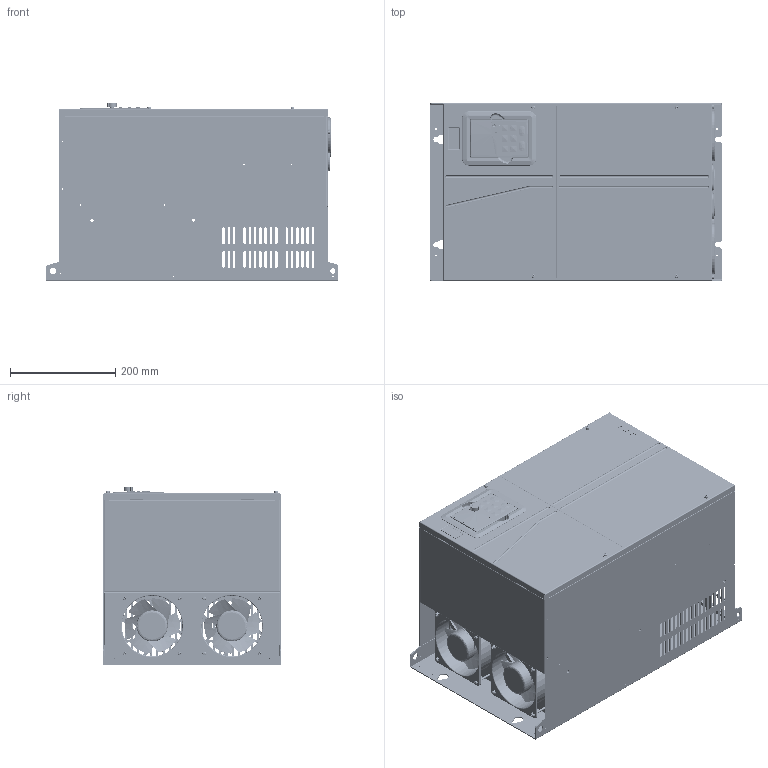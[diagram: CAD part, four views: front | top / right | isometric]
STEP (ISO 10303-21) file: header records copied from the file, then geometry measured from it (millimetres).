
FILE_DESCRIPTION((''),'2;1');
FILE_NAME('GD350-01-110G-4_ASM','2024-09-11T16:25:45',('Administrator'),(''),'CREO PARAMETRIC BY PTC INC, 2019080','CREO PARAMETRIC BY PTC INC, 2019080','');
FILE_SCHEMA(('CONFIG_CONTROL_DESIGN'));
Products named in the file (88): 80310984; S-M4-ZC; S-M6-ZC; CS-HNBT-0420; 80310984_ASM; 80383797; YMD-55-0D8-SL; BSO-M4-23-ZC; BSO-3D5M3-16-ZC; 80383797_ASM; 80481780; 80481780_ASM; 80383798; 80481781; 80481781_ASM; 80383799; 80383799_ASM; 80383800; 80383800_ASM; 80383802; 80383802_ASM; 80383278; 61063073_ASM; 803811730; 803811730_ASM; 803811729; BSO-M4-10-ZC-INVALID; 803811729_ASM; 80486765; 80486765_ASM; 803811731; 803811731_ASM; 803811731SY; 803811731SY_ASM; 86051186; 86051186_ASM; 80384708; 61063072_ASM; 61063072SY; 61063072SY_ASM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
Assembly tree (228 placements, depth 6):
  GD350-01-110G-4_ASM
    41060280_ASM
      61063073_ASM
        80310984_ASM
          80310984
          S-M4-ZC  x2
          S-M6-ZC  x6
          CS-HNBT-0420  x4
        80383797_ASM
          80383797
          YMD-55-0D8-SL  x2
          BSO-M4-23-ZC  x4
          BSO-3D5M3-16-ZC  x4
        80481780_ASM
          80481780
          S-M4-ZC  x2
        80383798
        80481781_ASM
          80481781
          S-M4-ZC  x2
        80383799_ASM
          80383799
          S-M4-ZC  x13
        80383800_ASM  x2
          80383800
          S-M4-ZC
        80383802_ASM  x8
          80383802
          S-M4-ZC
        80383278  x8
      803811730_ASM
        803811730
        S-M4-ZC  x10
        YMD-55-0D8-SL  x2
      803811729_ASM
        803811729
        BSO-M4-10-ZC-INVALID  x5
        YMD-55-0D8-SL  x2
      80486765_ASM
        80486765
        YMD-55-0D8-SL  x2
      803811731SY_ASM
        803811731_ASM
          803811731
          S-M4-ZC  x5
          YMD-55-0D8-SL  x2
          BSO-M4-10-ZC-INVALID  x4
        803811731SY
      61063072SY_ASM
        61063072_ASM
          86051186_ASM
            86051186
            YMD-55-0D8-SL  x2
          80384708
        61063072SY
      803811728SY_ASM
        803811728_ASM
          803811728
          S-M6-ZC  x9
          YMD-55-0D8-SL  x2
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Bounding box: 554 x 338 x 338.1 mm (x, y, z)
Volume: 3284177.2 mm3; surface area: 3634855.8 mm2
Topology: 227 solids, 280 shells, 25270 faces, 68308 edges, 44523 vertices
Faces by surface type: plane 19858, cylinder 3884, cone 837, bspline 306, torus 220, sphere 100, extrusion 33, revolution 32
Entity records: 356960 total; most frequent: CARTESIAN_POINT 79518, ORIENTED_EDGE 57898, DIRECTION 55417, EDGE_CURVE 28958, VECTOR 21905, LINE 21886, VERTEX_POINT 18716, AXIS2_PLACEMENT_3D 16748
